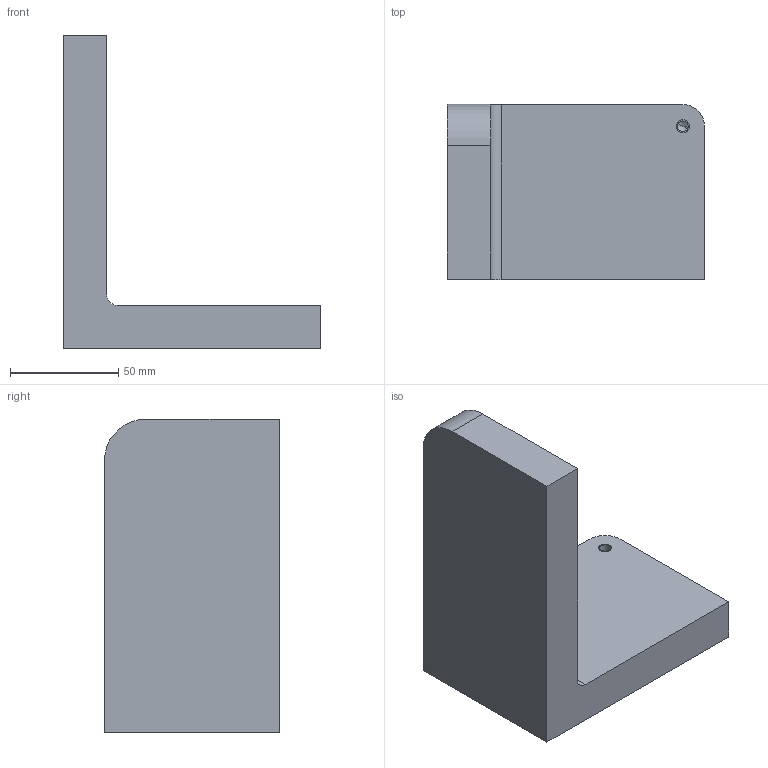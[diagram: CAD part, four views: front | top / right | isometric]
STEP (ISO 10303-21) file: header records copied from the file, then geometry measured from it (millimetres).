
FILE_DESCRIPTION(('CATIA V5 STEP Exchange'),'2;1');
FILE_NAME('C:\_Andres\UNIVERSIDAD\IQS\ASIGNATURAS\DAO\EXF\EXF-16172c\2inicio\Marra-Lopez_Llovet_Ej01_v19.stp','2017-03-05T15:11:08+00:00',('none'),('none'),'CATIA Version 5-6 Release 2014 SP1 HF18','CATIA V5 STEP AP203','none');
FILE_SCHEMA(('CONFIG_CONTROL_DESIGN'));
Length unit declared in the file: millimetre
Products named in the file (1): Marra-Lopez_Llovet_Ej01_v19
Bounding box: 119 x 81 x 145 mm (x, y, z)
Volume: 393423.1 mm3; surface area: 52394.4 mm2
Topology: 1 solids, 2 shells, 17 faces, 43 edges, 27 vertices
Faces by surface type: plane 8, cylinder 7, cone 2
Entity records: 513 total; most frequent: CARTESIAN_POINT 83, ORIENTED_EDGE 78, DIRECTION 69, EDGE_CURVE 41, AXIS2_PLACEMENT_3D 29, VECTOR 27, LINE 27, VERTEX_POINT 27
